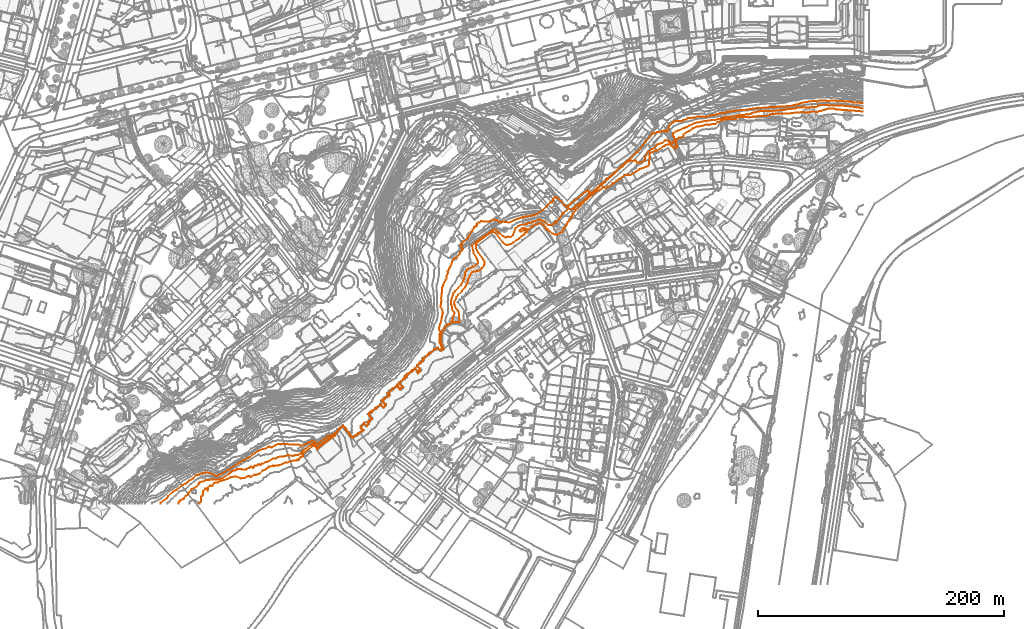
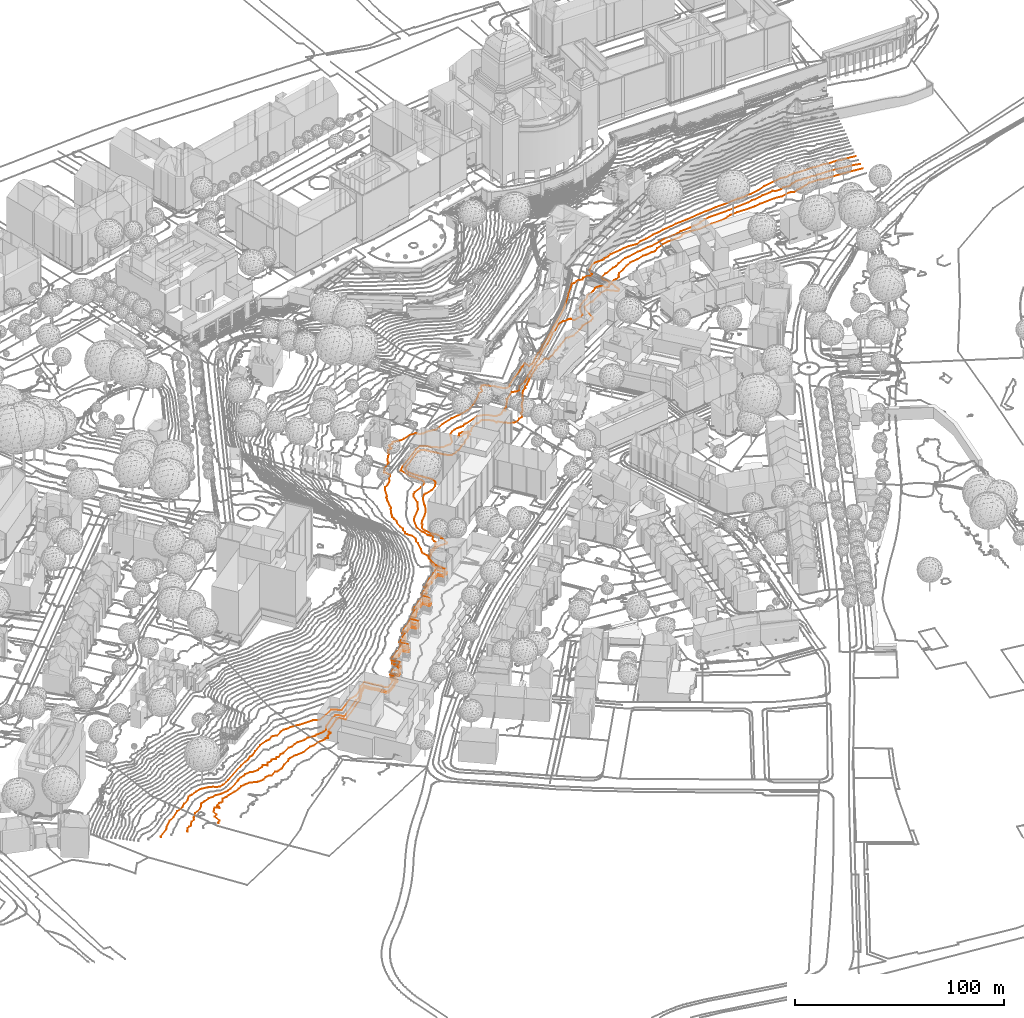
# Not in any storey, part 151 of 477: 3 geographic elements.
"""IFC4 model written with IfcOpenShell, lengths in metres."""

from ifc_helpers import new_model, entity, si_unit, frame, origin_with_axes, place, context, subcontext, project, spatial, element, save


model = new_model("IFC4")

# Units and contexts
model_context = context("Model", 3, precision=1e-05, world=origin_with_axes())
body_context = subcontext(model_context, "Body", "Model", "MODEL_VIEW")
ifc_project = project(units=[si_unit("AREAUNIT", "SQUARE_METRE"), si_unit("LENGTHUNIT", "METRE")], contexts=[model_context])

# Sites
site_1_placement = place(None, origin_with_axes())
site_1 = spatial("IfcSite", under=ifc_project, at=site_1_placement, Name="Topoexport Site")
site_2_placement = place(site_1_placement, origin_with_axes())
site_2 = spatial("IfcSite", under=site_1, at=site_2_placement, Name="TPX_CONTOUR_LINES")

# Geographic elements
geographic_element_1_placement = place(site_2_placement, frame((149.0503188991, -1.3292839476, 506.0), z_axis=(0.0, 0.0, 1.0), x_axis=(1.0, 0.0, 0.0)))
element("IfcGeographicElement", 1, at=geographic_element_1_placement, inside=site_2, Name="Contour Line 506.0 m", PredefinedType="NOTDEFINED", context=body_context, shape_type="GeometricCurveSet", body=[
    entity("IfcGeometricCurveSet", [entity("IfcIndexedPolyCurve", entity("IfcCartesianPointList3D", [[539.1274131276, 318.1795913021, 0.0], [534.6274131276, 318.7331112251, 0.0], [517.6274131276, 319.9297103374, 0.0], [516.314191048, 320.5, 0.0], [510.6274131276, 320.605263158, 0.0], [508.6274131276, 319.8259561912, 0.0], [505.6274131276, 319.1420975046, 0.0], [504.6274131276, 318.5729927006, 0.0], [503.0811289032, 318.5, 0.0], [501.6274131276, 317.7562446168, 0.0], [500.6274131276, 317.6974380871, 0.0], [498.6274131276, 318.3819385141, 0.0], [493.6274131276, 317.4269476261, 0.0], [489.6274131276, 317.8066559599, 0.0], [481.6274131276, 317.1678540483, 0.0], [478.6274131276, 316.5968567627, 0.0], [468.6274131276, 316.5110923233, 0.0], [464.6274131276, 316.2199140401, 0.0], [462.869023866, 315.5, 0.0], [458.6274131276, 314.4451345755, 0.0], [453.6274131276, 314.4213956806, 0.0], [448.6274131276, 313.9967196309, 0.0], [446.6274131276, 313.4705424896, 0.0], [441.6274131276, 313.9756642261, 0.0], [437.6274131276, 313.8356299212, 0.0], [436.6274131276, 313.5874130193, 0.0], [435.6274131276, 312.576432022, 0.0], [434.6274131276, 312.2596209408, 0.0], [427.6274131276, 311.971775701, 0.0], [424.6274131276, 311.2859959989, 0.0], [420.6274131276, 309.6381000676, 0.0], [418.6274131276, 308.0476821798, 0.0], [416.6274131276, 308.0710813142, 0.0], [413.6274131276, 307.498828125, 0.0], [411.6274131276, 307.7568775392, 0.0], [407.9791191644, 306.5, 0.0], [403.6274131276, 305.9440595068, 0.0], [400.6468883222, 304.5, 0.0], [397.6274131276, 302.4513502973, 0.0], [394.6274131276, 300.961122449, 0.0], [393.3709716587, 299.5, 0.0], [393.1261545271, 298.5, 0.0], [392.6274131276, 298.0224168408, 0.0], [390.6274131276, 297.1469775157, 0.0], [389.6274131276, 297.1513446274, 0.0], [387.6274131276, 296.0328448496, 0.0], [387.0874232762, 294.5, 0.0], [387.4627930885, 292.5, 0.0], [387.2343445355, 291.5, 0.0], [387.7260961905, 290.5, 0.0], [387.6612018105, 289.5, 0.0], [387.6274131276, 289.1161449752, 0.0], [386.9792328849, 288.5, 0.0], [386.6274131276, 288.3247280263, 0.0], [385.6274131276, 288.6380622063, 0.0], [385.0130100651, 289.5, 0.0], [383.6274131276, 290.3649106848, 0.0], [382.6274131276, 291.5706206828, 0.0], [381.6274131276, 291.6778508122, 0.0], [378.6274131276, 291.1850411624, 0.0], [377.6274131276, 290.0541057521, 0.0], [376.6274131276, 289.7817955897, 0.0], [371.6274131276, 286.6683745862, 0.0], [370.6274131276, 286.7648910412, 0.0], [366.6274131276, 284.9454658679, 0.0], [366.0845931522, 284.5, 0.0], [365.4101036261, 282.5, 0.0], [365.3071844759, 275.5, 0.0], [364.6274131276, 274.3859761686, 0.0], [363.1334528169, 273.5, 0.0], [357.6274131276, 271.6295942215, 0.0], [354.6274131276, 269.5131526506, 0.0], [349.6274131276, 266.760131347, 0.0], [346.6274131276, 266.5471986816, 0.0], [345.6274131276, 266.8380166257, 0.0], [342.6274131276, 264.4309703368, 0.0], [340.6274131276, 263.2852605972, 0.0], [339.6274131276, 262.1532119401, 0.0], [338.6274131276, 262.1107469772, 0.0], [336.6274131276, 260.1230519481, 0.0], [335.6274131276, 260.1684147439, 0.0], [332.7552398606, 257.5, 0.0], [331.6274131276, 257.283780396, 0.0], [329.6274131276, 255.8809523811, 0.0], [328.6274131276, 256.8682539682, 0.0], [327.6274131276, 256.7540998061, 0.0], [325.6274131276, 255.0246166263, 0.0], [321.6274131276, 253.2059391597, 0.0], [321.2037678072, 252.5, 0.0], [316.1300595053, 248.5, 0.0], [315.4004064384, 247.5, 0.0], [313.6274131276, 246.1984126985, 0.0], [309.9587087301, 242.5, 0.0], [308.336539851, 241.5, 0.0], [307.9881915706, 240.5, 0.0], [305.6274131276, 238.7779795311, 0.0], [302.8437165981, 234.5, 0.0], [302.2433368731, 232.5, 0.0], [300.6274131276, 230.8021806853, 0.0], [299.1012404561, 228.5, 0.0], [297.8772436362, 225.5, 0.0], [296.6274131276, 223.967429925, 0.0], [295.8401790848, 223.5, 0.0], [294.7602425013, 220.5, 0.0], [292.6274131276, 219.7081551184, 0.0], [290.6274131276, 218.2825363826, 0.0], [288.6274131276, 218.2526815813, 0.0], [286.6274131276, 219.0372517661, 0.0], [283.6274131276, 221.5783831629, 0.0], [282.6274131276, 222.8463117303, 0.0], [281.5968196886, 222.5, 0.0], [280.8981759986, 224.5, 0.0], [279.6274131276, 225.8213698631, 0.0], [276.6274131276, 227.6371055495, 0.0], [275.6274131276, 227.4205785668, 0.0], [273.6274131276, 226.2970583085, 0.0], [272.6274131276, 226.3534818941, 0.0], [269.1141130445, 224.5, 0.0], [267.6274131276, 222.3342494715, 0.0], [266.6274131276, 222.3635090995, 0.0], [263.6274131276, 223.5267978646, 0.0], [261.6274131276, 223.3931606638, 0.0], [260.6274131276, 221.9438310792, 0.0], [259.8234131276, 221.5, 0.0], [260.6274131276, 220.9406956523, 0.0], [261.6274131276, 220.9827193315, 0.0], [263.6274131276, 222.0676618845, 0.0], [265.6274131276, 221.795430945, 0.0], [265.8096422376, 220.5, 0.0], [265.6274131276, 220.148742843, 0.0], [264.6274131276, 219.9161758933, 0.0], [263.6274131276, 218.2995852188, 0.0], [261.6274131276, 217.2810492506, 0.0], [260.1495294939, 215.5, 0.0], [257.6274131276, 214.0521481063, 0.0], [254.6274131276, 211.7222543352, 0.0], [252.6274131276, 210.5508045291, 0.0], [249.6274131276, 209.8019529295, 0.0], [248.6274131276, 210.0654235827, 0.0], [246.6274131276, 211.9024409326, 0.0], [240.6274131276, 219.4438158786, 0.0], [238.6274131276, 220.5635505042, 0.0], [237.6274131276, 220.4112393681, 0.0], [236.6274131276, 219.8761899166, 0.0], [234.4024678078, 218.5, 0.0], [225.1798437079, 211.5, 0.0], [224.6757989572, 210.5, 0.0], [224.4548750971, 207.5, 0.0], [226.6224528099, 203.5, 0.0], [230.3327727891, 198.5, 0.0], [231.3628978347, 196.5, 0.0], [231.6080552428, 194.5, 0.0], [231.3213357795, 193.5, 0.0], [229.6274131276, 191.1390687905, 0.0], [226.6274131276, 189.0081478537, 0.0], [222.6274131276, 188.1146252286, 0.0], [221.6274131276, 187.7324999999, 0.0], [220.6274131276, 186.7278820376, 0.0], [219.6274131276, 185.1738170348, 0.0], [217.6135966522, 180.5, 0.0], [217.5311613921, 179.5, 0.0], [215.51953782, 175.5, 0.0], [213.1019893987, 172.5, 0.0], [210.1579597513, 169.5, 0.0], [208.6242801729, 167.5, 0.0], [208.5088976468, 166.5, 0.0], [207.0577417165, 164.5, 0.0], [206.8467510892, 162.5, 0.0], [207.0423641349, 161.5, 0.0], [208.6274131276, 157.8876686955, 0.0], [209.9133849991, 156.5, 0.0], [210.4336311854, 155.5, 0.0], [210.9069401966, 153.5, 0.0], [210.7048956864, 152.5, 0.0], [211.240367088, 149.5, 0.0], [211.2262928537, 147.5, 0.0], [210.6274131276, 147.2526031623, 0.0], [207.6274131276, 147.2165244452, 0.0], [204.6274131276, 146.8090114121, 0.0], [202.6274131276, 145.2672645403, 0.0], [200.6274131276, 144.2782372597, 0.0], [197.704752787, 140.5, 0.0], [196.4396911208, 137.5, 0.0], [195.9455367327, 134.5, 0.0], [196.0265245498, 131.5, 0.0], [198.1768685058, 125.5, 0.0], [197.6274131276, 124.9499519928, 0.0], [196.6274131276, 124.9516405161, 0.0], [195.6274131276, 123.9509760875, 0.0], [193.6274131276, 125.9516428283, 0.0], [192.6274131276, 125.951323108, 0.0], [191.6274131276, 124.9515799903, 0.0], [190.6274131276, 124.9498276, 0.0], [187.6274131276, 121.9505866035, 0.0], [185.6274131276, 120.9481447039, 0.0], [182.01979435, 117.5, 0.0], [182.1780258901, 116.5, 0.0], [179.6274131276, 113.9774190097, 0.0], [178.6274131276, 113.9180944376, 0.0], [177.1776289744, 112.5, 0.0], [177.177696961, 111.5, 0.0], [179.1422324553, 109.5, 0.0], [179.1769544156, 107.5, 0.0], [178.6274131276, 106.9497401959, 0.0], [177.6274131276, 106.0483217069, 0.0], [177.178227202, 106.5, 0.0], [177.0444966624, 107.5, 0.0], [175.6274131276, 108.9516428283, 0.0], [174.6274131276, 108.9503022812, 0.0], [173.6274131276, 107.9515495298, 0.0], [171.6274131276, 106.9486875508, 0.0], [169.6274131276, 104.9509582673, 0.0], [167.1792981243, 103.5, 0.0], [168.1764648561, 102.5, 0.0], [166.6274131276, 101.1993164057, 0.0], [165.6274131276, 100.9488154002, 0.0], [162.3382463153, 97.5, 0.0], [165.1761520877, 94.5, 0.0], [164.2894774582, 93.5, 0.0], [163.6274131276, 92.9511290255, 0.0], [162.6274131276, 92.9516428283, 0.0], [161.0790559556, 94.5, 0.0], [160.6274131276, 95.6695430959, 0.0], [157.6274131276, 92.9512166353, 0.0], [155.6274131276, 91.9496935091, 0.0], [153.1765213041, 89.5, 0.0], [154.1757702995, 88.5, 0.0], [153.6274131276, 87.5108465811, 0.0], [152.6274131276, 86.9502114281, 0.0], [149.6274131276, 84.0343777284, 0.0], [148.3412491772, 83.5, 0.0], [151.0281874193, 80.5, 0.0], [151.1763721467, 79.5, 0.0], [149.6274131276, 77.9492298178, 0.0], [147.6274131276, 79.9516428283, 0.0], [146.6274131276, 79.9487176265, 0.0], [143.6274131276, 77.0575956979, 0.0], [142.6274131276, 76.9466592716, 0.0], [139.6274131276, 74.0209710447, 0.0], [138.6274131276, 73.9466369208, 0.0], [138.1793056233, 73.5, 0.0], [138.2211349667, 71.5, 0.0], [140.1757702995, 69.5, 0.0], [140.1760849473, 68.5, 0.0], [137.6274131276, 66.2548345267, 0.0], [137.1757702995, 65.5, 0.0], [137.1765065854, 64.5, 0.0], [135.6274131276, 62.9497192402, 0.0], [133.6274131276, 64.7411567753, 0.0], [131.1758255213, 62.5, 0.0], [131.1820613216, 61.5, 0.0], [133.0592970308, 59.5, 0.0], [132.6274131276, 59.0674618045, 0.0], [131.6274131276, 58.8243150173, 0.0], [129.6274131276, 56.9286708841, 0.0], [124.6274131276, 53.3078021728, 0.0], [123.6274131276, 53.894881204, 0.0], [122.1207012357, 55.5, 0.0], [121.0209011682, 57.5, 0.0], [118.1295600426, 60.5, 0.0], [117.794396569, 61.5, 0.0], [116.6274131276, 62.8924090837, 0.0], [113.6274131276, 60.1657652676, 0.0], [109.6274131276, 54.7682689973, 0.0], [107.6274131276, 53.6137033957, 0.0], [95.6274131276, 44.1953125, 0.0], [93.6274131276, 46.7553297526, 0.0], [92.6274131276, 46.9991136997, 0.0], [91.638451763, 46.5, 0.0], [84.6274131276, 40.8860647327, 0.0], [83.5472473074, 39.5, 0.0], [83.6274131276, 38.8072653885, 0.0], [83.9976258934, 38.5, 0.0], [83.6274131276, 38.0732305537, 0.0], [82.1869006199, 37.5, 0.0], [81.2562010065, 36.5, 0.0], [80.6274131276, 35.1466346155, 0.0], [79.6274131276, 35.5558578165, 0.0], [78.6274131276, 34.8061062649, 0.0], [74.6274131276, 34.5550272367, 0.0], [71.6274131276, 33.344121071, 0.0], [69.6274131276, 33.0942992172, 0.0], [64.6274131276, 30.9756725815, 0.0], [60.6274131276, 30.4926089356, 0.0], [59.6274131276, 30.6109346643, 0.0], [56.6274131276, 29.7696991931, 0.0], [55.6274131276, 29.2990803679, 0.0], [54.6274131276, 28.2279062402, 0.0], [51.3155349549, 26.5, 0.0], [48.6274131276, 24.0656035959, 0.0], [46.6274131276, 23.6194934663, 0.0], [45.6274131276, 23.0682110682, 0.0], [44.6274131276, 23.5121205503, 0.0], [41.6274131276, 21.483049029, 0.0], [40.6274131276, 22.2651347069, 0.0], [38.6274131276, 21.9521541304, 0.0], [36.6274131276, 20.6897543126, 0.0], [33.6274131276, 20.3145695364, 0.0], [29.6274131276, 21.7494574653, 0.0], [26.6274131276, 21.5358565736, 0.0], [24.6274131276, 21.154233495, 0.0], [22.6274131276, 19.905612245, 0.0], [19.6274131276, 18.7668949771, 0.0], [15.6274131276, 17.750781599, 0.0], [14.6274131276, 17.0020034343, 0.0], [13.6274131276, 17.0647783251, 0.0], [11.7919324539, 16.5, 0.0], [10.5198803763, 14.5, 0.0], [9.6274131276, 14.1659856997, 0.0], [8.5417077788, 14.5, 0.0], [6.6274131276, 12.7803519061, 0.0], [7.0005625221, 11.5, 0.0], [6.6341620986, 10.5, 0.0], [5.9428452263, 11.5, 0.0], [4.6274131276, 11.9767305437, 0.0], [3.4533652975, 10.5, 0.0], [2.8073571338, 9.5, 0.0], [2.6698723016, 6.5, 0.0], [1.0865284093, 5.5, 0.0], [1.3490672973, 1.5, 0.0], [0.0, 0.5, 0.0], [0.0, 0.0, 0.0]]))]),
])
geographic_element_2_placement = place(site_2_placement, frame((131.8527546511, -1.3292839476, 507.0), z_axis=(0.0, 0.0, 1.0), x_axis=(1.0, 0.0, 0.0)))
element("IfcGeographicElement", 2, at=geographic_element_2_placement, inside=site_2, Name="Contour Line 507.0 m", PredefinedType="NOTDEFINED", context=body_context, shape_type="GeometricCurveSet", body=[
    entity("IfcGeometricCurveSet", [entity("IfcIndexedPolyCurve", entity("IfcCartesianPointList3D", [[556.3249773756, 320.7010909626, 0.0], [551.8249773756, 321.75, 0.0], [550.8249773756, 321.6667436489, 0.0], [545.6986539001, 322.5, 0.0], [538.8249773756, 323.1541575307, 0.0], [533.8249773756, 323.2235699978, 0.0], [531.8249773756, 322.9883006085, 0.0], [530.8249773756, 323.4821631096, 0.0], [528.8249773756, 323.2677794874, 0.0], [526.8249773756, 323.6350699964, 0.0], [522.8249773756, 323.6372582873, 0.0], [519.8249773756, 323.0687103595, 0.0], [517.8249773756, 321.7685056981, 0.0], [516.8249773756, 321.7350644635, 0.0], [514.8249773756, 322.3136719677, 0.0], [512.8249773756, 321.453125, 0.0], [509.8249773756, 321.3249013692, 0.0], [508.8249773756, 322.302061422, 0.0], [506.8249773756, 321.733974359, 0.0], [502.7671082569, 321.5, 0.0], [500.8249773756, 320.8453315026, 0.0], [497.8249773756, 320.3995526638, 0.0], [496.4803150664, 320.5, 0.0], [493.8249773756, 319.8103486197, 0.0], [482.8249773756, 318.8356604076, 0.0], [471.8249773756, 318.4739909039, 0.0], [468.8249773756, 317.9326923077, 0.0], [465.8249773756, 317.0388127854, 0.0], [465.5316274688, 316.5, 0.0], [462.8249773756, 315.9618605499, 0.0], [461.8249773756, 316.1368552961, 0.0], [459.4207932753, 315.5, 0.0], [453.8249773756, 315.1652029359, 0.0], [451.8249773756, 314.3412291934, 0.0], [444.8249773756, 313.6876757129, 0.0], [435.8249773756, 311.4121590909, 0.0], [433.8249773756, 311.4877355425, 0.0], [428.8249773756, 310.6176603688, 0.0], [427.8249773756, 310.6883208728, 0.0], [421.8249773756, 309.1725656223, 0.0], [419.8249773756, 309.1184804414, 0.0], [414.8249773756, 306.8898659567, 0.0], [412.8336093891, 305.5, 0.0], [410.8249773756, 305.0212133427, 0.0], [405.8249773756, 302.7433371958, 0.0], [404.8249773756, 302.5255234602, 0.0], [401.8249773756, 300.6747114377, 0.0], [401.8249773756, 298.5432878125, 0.0], [402.7289543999, 297.5, 0.0], [403.1175914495, 295.5, 0.0], [402.8249773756, 293.8400477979, 0.0], [401.8249773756, 293.2485805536, 0.0], [401.3977368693, 292.5, 0.0], [400.8249773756, 292.2520494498, 0.0], [399.1870768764, 292.5, 0.0], [399.3218920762, 293.5, 0.0], [398.2560731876, 294.5, 0.0], [397.8249773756, 294.7790818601, 0.0], [395.8249773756, 294.9721079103, 0.0], [394.7828345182, 294.5, 0.0], [392.8249773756, 292.8227645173, 0.0], [388.8249773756, 291.4082568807, 0.0], [386.8249773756, 288.8778906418, 0.0], [384.8249773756, 288.0018952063, 0.0], [381.8249773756, 285.731696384, 0.0], [380.1453113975, 283.5, 0.0], [379.2953630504, 281.5, 0.0], [378.8249773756, 278.3224429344, 0.0], [376.8249773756, 277.3873714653, 0.0], [372.8249773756, 276.4722138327, 0.0], [371.8249773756, 278.3394793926, 0.0], [370.8721876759, 278.5, 0.0], [368.8249773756, 278.0904704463, 0.0], [367.8249773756, 278.4880788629, 0.0], [364.8249773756, 277.5157067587, 0.0], [360.8249773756, 273.7445426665, 0.0], [358.8249773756, 272.5661986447, 0.0], [351.8249773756, 265.7412375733, 0.0], [347.8249773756, 262.6675178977, 0.0], [341.8249773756, 256.8242179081, 0.0], [338.8249773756, 254.5662165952, 0.0], [333.8249773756, 249.879814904, 0.0], [332.9277686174, 249.5, 0.0], [330.8249773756, 247.7734399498, 0.0], [326.8249773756, 244.0388887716, 0.0], [322.8249773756, 241.8328492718, 0.0], [320.8249773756, 239.1044189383, 0.0], [319.8249773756, 238.7460827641, 0.0], [316.8249773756, 239.4542182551, 0.0], [312.8249773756, 235.9206699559, 0.0], [311.9544776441, 235.5, 0.0], [311.7219550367, 234.5, 0.0], [308.675866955, 230.5, 0.0], [306.8249773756, 228.5712460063, 0.0], [306.2020723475, 228.5, 0.0], [306.8249773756, 228.262260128, 0.0], [306.8249773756, 227.4009146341, 0.0], [305.8249773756, 228.4284199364, 0.0], [303.8249773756, 226.2893189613, 0.0], [302.8249773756, 225.9653961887, 0.0], [300.8249773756, 226.0128455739, 0.0], [299.8249773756, 226.3853775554, 0.0], [297.8249773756, 228.3803927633, 0.0], [296.0406874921, 229.5, 0.0], [292.8249773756, 230.4071281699, 0.0], [284.8249773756, 227.592541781, 0.0], [283.8249773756, 227.5246221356, 0.0], [282.8249773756, 226.8089110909, 0.0], [281.8249773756, 226.5514084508, 0.0], [279.8249773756, 226.6289617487, 0.0], [277.8249773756, 226.1202646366, 0.0], [275.8249773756, 225.1868333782, 0.0], [273.9338501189, 223.5, 0.0], [271.8249773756, 217.8308435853, 0.0], [269.8249773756, 216.458174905, 0.0], [267.8249773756, 216.5881024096, 0.0], [265.8249773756, 216.1153846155, 0.0], [263.8249773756, 217.0308248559, 0.0], [260.8249773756, 219.3033584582, 0.0], [259.7751383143, 220.5, 0.0], [256.8249773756, 222.6017110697, 0.0], [253.8249773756, 221.1879032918, 0.0], [240.8249773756, 211.817332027, 0.0], [238.6080529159, 209.5, 0.0], [239.9655179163, 203.5, 0.0], [242.8249773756, 198.3077913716, 0.0], [243.4693925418, 196.5, 0.0], [243.4670549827, 195.5, 0.0], [242.6917882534, 194.5, 0.0], [239.9951101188, 192.5, 0.0], [235.2654535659, 190.5, 0.0], [234.2014013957, 189.5, 0.0], [233.0763797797, 187.5, 0.0], [232.2512185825, 182.5, 0.0], [229.5820528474, 177.5, 0.0], [224.8249773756, 172.5040858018, 0.0], [223.312113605, 170.5, 0.0], [221.4618242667, 164.5, 0.0], [221.8204946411, 160.5, 0.0], [222.3080049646, 159.5, 0.0], [222.6937258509, 156.5, 0.0], [223.9416700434, 155.5, 0.0], [224.5266663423, 154.5, 0.0], [223.3527276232, 152.5, 0.0], [222.8813700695, 150.5, 0.0], [223.2186922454, 149.5, 0.0], [222.6478587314, 148.5, 0.0], [222.5310570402, 147.5, 0.0], [221.8249773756, 147.4662247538, 0.0], [219.7631289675, 145.5, 0.0], [217.8249773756, 144.8205977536, 0.0], [216.3175733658, 142.5, 0.0], [214.5260134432, 140.5, 0.0], [213.6449713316, 138.5, 0.0], [212.8433461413, 134.5, 0.0], [212.95745034, 131.5, 0.0], [213.5029934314, 129.5, 0.0], [215.2359830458, 125.5, 0.0], [214.8249773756, 125.0885510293, 0.0], [213.8249773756, 125.0898140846, 0.0], [212.8249773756, 124.0893170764, 0.0], [210.8249773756, 126.0898158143, 0.0], [209.8249773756, 126.0893982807, 0.0], [208.8249773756, 125.0897337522, 0.0], [207.8249773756, 125.0874452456, 0.0], [204.8249773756, 122.0887240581, 0.0], [202.8249773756, 121.0854089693, 0.0], [199.0314672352, 117.5, 0.0], [199.2379684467, 116.5, 0.0], [196.8249773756, 114.1234778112, 0.0], [195.8249773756, 114.0623077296, 0.0], [194.2375888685, 112.5, 0.0], [194.2376776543, 111.5, 0.0], [196.191363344, 109.5, 0.0], [196.2360473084, 107.5, 0.0], [195.8249773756, 107.0883926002, 0.0], [194.8249773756, 106.2177695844, 0.0], [194.3889420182, 107.5, 0.0], [192.8249773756, 109.0898158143, 0.0], [191.8249773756, 109.0880651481, 0.0], [190.8249773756, 108.0896939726, 0.0], [189.8249773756, 107.8336985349, 0.0], [186.8249773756, 105.0889218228, 0.0], [184.8249773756, 104.0843139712, 0.0], [184.2397686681, 103.5, 0.0], [185.2356811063, 102.5, 0.0], [183.8249773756, 101.4132612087, 0.0], [182.8249773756, 101.0861233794, 0.0], [179.3570864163, 97.5, 0.0], [182.2354471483, 94.5, 0.0], [181.3202172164, 93.5, 0.0], [180.8249773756, 93.0894314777, 0.0], [179.8249773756, 93.0898158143, 0.0], [178.4147931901, 94.5, 0.0], [178.2049980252, 95.5, 0.0], [177.8249773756, 95.8763935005, 0.0], [174.8249773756, 93.0892592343, 0.0], [173.8249773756, 92.8319645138, 0.0], [172.8249773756, 92.0872701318, 0.0], [170.2361423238, 89.5, 0.0], [171.2351615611, 88.5, 0.0], [170.8249773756, 87.7600897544, 0.0], [166.8249773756, 84.1978621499, 0.0], [165.8249773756, 83.9645879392, 0.0], [165.3603666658, 83.5, 0.0], [168.0424280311, 80.5, 0.0], [168.2356117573, 79.5, 0.0], [166.8249773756, 78.0880108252, 0.0], [164.8249773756, 80.0898158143, 0.0], [163.8249773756, 80.0859956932, 0.0], [160.8249773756, 77.22818329, 0.0], [159.8249773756, 77.0833076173, 0.0], [156.8249773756, 74.1803539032, 0.0], [155.8249773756, 74.0832784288, 0.0], [155.2397784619, 73.5, 0.0], [155.2703129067, 71.5, 0.0], [157.2351615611, 69.5, 0.0], [157.2353969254, 68.5, 0.0], [154.8249773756, 66.4857642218, 0.0], [154.2351615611, 65.5, 0.0], [154.2357123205, 64.5, 0.0], [152.8249773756, 63.0883769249, 0.0], [150.8249773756, 64.9306449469, 0.0], [148.2352336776, 62.5, 0.0], [148.2433772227, 61.5, 0.0], [150.0817109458, 59.5, 0.0], [149.8249773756, 59.2428774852, 0.0], [148.8249773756, 58.9878524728, 0.0], [146.8249773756, 57.0605361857, 0.0], [141.8249773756, 53.554673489, 0.0], [140.8249773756, 54.0165853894, 0.0], [139.4752499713, 55.5, 0.0], [138.3399962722, 57.5, 0.0], [135.4882929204, 60.5, 0.0], [135.158042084, 61.5, 0.0], [133.8249773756, 63.0134264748, 0.0], [130.8292322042, 60.5, 0.0], [127.8249773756, 56.5054559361, 0.0], [126.8249773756, 55.6090789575, 0.0], [124.3662568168, 54.5, 0.0], [112.8249773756, 45.6838542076, 0.0], [110.8249773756, 48.1172721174, 0.0], [109.8249773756, 48.6961075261, 0.0], [109.315154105, 48.5, 0.0], [107.2395502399, 47.5, 0.0], [101.8249773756, 43.3573556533, 0.0], [100.8249773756, 42.4069422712, 0.0], [99.8249773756, 40.6392226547, 0.0], [97.8249773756, 39.5021442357, 0.0], [93.8249773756, 39.0413628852, 0.0], [92.8249773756, 38.5575511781, 0.0], [88.8249773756, 39.0656598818, 0.0], [86.8249773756, 38.2575839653, 0.0], [82.8249773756, 38.1799809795, 0.0], [80.8249773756, 37.6926693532, 0.0], [78.8249773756, 36.3518918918, 0.0], [76.8249773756, 36.453580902, 0.0], [72.8249773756, 34.0523156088, 0.0], [71.8249773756, 33.687510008, 0.0], [70.8249773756, 33.7378774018, 0.0], [68.8249773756, 32.1527966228, 0.0], [67.8249773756, 32.4257958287, 0.0], [66.8249773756, 31.2667531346, 0.0], [65.8249773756, 31.7746852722, 0.0], [64.8249773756, 31.6597927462, 0.0], [63.8249773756, 30.8389408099, 0.0], [61.8249773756, 30.6353267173, 0.0], [60.8249773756, 28.5903588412, 0.0], [60.2026762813, 29.5, 0.0], [58.8249773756, 29.9675521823, 0.0], [57.8249773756, 28.8029237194, 0.0], [55.8249773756, 28.3169838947, 0.0], [54.8249773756, 27.6118766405, 0.0], [51.8249773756, 27.4863400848, 0.0], [50.8249773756, 28.0498193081, 0.0], [47.8249773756, 27.6846646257, 0.0], [46.8249773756, 26.9262611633, 0.0], [44.5776318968, 26.5, 0.0], [42.9190261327, 25.5, 0.0], [41.8249773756, 24.4361220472, 0.0], [35.8249773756, 20.7772107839, 0.0], [33.8249773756, 19.957668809, 0.0], [29.8249773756, 19.2276461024, 0.0], [26.8249773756, 19.5543377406, 0.0], [24.8249773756, 19.0355303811, 0.0], [22.8249773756, 19.0746998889, 0.0], [19.8249773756, 17.7382625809, 0.0], [17.8249773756, 17.2665806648, 0.0], [16.9953124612, 16.5, 0.0], [16.6128328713, 15.5, 0.0], [14.8249773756, 13.711755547, 0.0], [10.8249773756, 11.470754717, 0.0], [8.3892174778, 8.5, 0.0], [7.8249773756, 7.1655151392, 0.0], [5.8249773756, 6.1143936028, 0.0], [4.5028047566, 4.5, 0.0], [4.1419718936, 3.5, 0.0], [2.8249773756, 3.2114769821, 0.0], [1.4893339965, 2.5, 0.0], [0.9805260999, 1.5, 0.0], [0.0, 0.5, 0.0], [0.0, 0.0, 0.0]]))]),
])
geographic_element_3_placement = place(site_2_placement, frame((117.2585436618, -1.3292839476, 509.0), z_axis=(0.0, 0.0, 1.0), x_axis=(1.0, 0.0, 0.0)))
element("IfcGeographicElement", 3, at=geographic_element_3_placement, inside=site_2, Name="Contour Line 509.0 m", PredefinedType="NOTDEFINED", context=body_context, shape_type="GeometricCurveSet", body=[
    entity("IfcGeometricCurveSet", [entity("IfcIndexedPolyCurve", entity("IfcCartesianPointList3D", [[570.9191883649, 324.956254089, 0.0], [565.4191883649, 325.6498417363, 0.0], [563.4191883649, 325.6430335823, 0.0], [561.4191883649, 326.187281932, 0.0], [556.4191883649, 326.2981548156, 0.0], [553.4191883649, 326.9506746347, 0.0], [550.4191883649, 326.5363046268, 0.0], [549.4191883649, 326.9317990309, 0.0], [547.4191883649, 327.0731755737, 0.0], [541.4191883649, 326.9684140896, 0.0], [538.4191883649, 327.3371040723, 0.0], [535.4191883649, 327.1502746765, 0.0], [533.4191883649, 326.5601491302, 0.0], [530.4191883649, 326.9946310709, 0.0], [520.4191883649, 325.2432694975, 0.0], [516.4191883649, 323.878028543, 0.0], [511.4191883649, 322.8057544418, 0.0], [509.4191883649, 322.7835549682, 0.0], [506.4191883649, 322.2893516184, 0.0], [504.4191883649, 322.4062438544, 0.0], [496.4191883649, 321.7698817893, 0.0], [491.4191883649, 321.6907033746, 0.0], [488.4191883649, 321.2209009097, 0.0], [482.4191883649, 320.8667191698, 0.0], [474.4191883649, 319.6142624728, 0.0], [468.4191883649, 319.2023544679, 0.0], [460.4191883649, 317.9297176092, 0.0], [457.4191883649, 317.1648111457, 0.0], [454.4191883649, 316.8980057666, 0.0], [449.6561003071, 315.5, 0.0], [446.4191883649, 315.0593172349, 0.0], [443.4191883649, 313.8422740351, 0.0], [439.4191883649, 314.2780142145, 0.0], [436.4191883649, 314.1614759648, 0.0], [434.1415413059, 313.5, 0.0], [428.4191883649, 312.8295916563, 0.0], [426.4191883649, 311.7634697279, 0.0], [424.4191883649, 311.3011719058, 0.0], [423.4191883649, 310.6657935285, 0.0], [418.1407142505, 310.5, 0.0], [416.4191883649, 309.6123804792, 0.0], [413.1050712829, 306.5, 0.0], [412.4191883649, 302.834402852, 0.0], [411.4191883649, 302.2633055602, 0.0], [410.4191883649, 302.0345102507, 0.0], [409.4191883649, 302.6687090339, 0.0], [407.4191883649, 302.3069245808, 0.0], [406.4191883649, 301.3358502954, 0.0], [404.4191883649, 301.7287636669, 0.0], [403.4191883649, 301.5842193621, 0.0], [401.4191883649, 300.6033509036, 0.0], [400.4191883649, 300.9194756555, 0.0], [399.4191883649, 300.1702997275, 0.0], [398.3043567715, 298.5, 0.0], [394.4191883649, 294.4466911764, 0.0], [393.9585779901, 293.5, 0.0], [387.184973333, 285.5, 0.0], [378.4191883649, 277.207113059, 0.0], [374.4191883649, 273.883095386, 0.0], [369.4191883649, 269.1497028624, 0.0], [362.4191883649, 263.3827265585, 0.0], [361.8174788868, 262.5, 0.0], [358.4191883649, 259.3912957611, 0.0], [357.4191883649, 258.9880534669, 0.0], [350.4191883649, 252.4017835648, 0.0], [349.4191883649, 252.4090691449, 0.0], [348.252701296, 251.5, 0.0], [347.6796645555, 254.5, 0.0], [347.4191883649, 254.5953127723, 0.0], [345.4191883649, 252.9341257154, 0.0], [344.4191883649, 252.6755770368, 0.0], [342.3587524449, 250.5, 0.0], [336.848366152, 246.5, 0.0], [332.4191883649, 242.8423085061, 0.0], [331.3338391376, 241.5, 0.0], [330.4191883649, 241.057976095, 0.0], [329.4191883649, 241.2006193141, 0.0], [328.4191883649, 241.8307703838, 0.0], [325.4191883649, 245.4125582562, 0.0], [322.6647425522, 247.5, 0.0], [322.4191883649, 248.1979976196, 0.0], [321.4191883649, 248.6669196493, 0.0], [320.4191883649, 248.71997778, 0.0], [319.0611315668, 247.5, 0.0], [318.7080348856, 246.5, 0.0], [318.8885010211, 245.5, 0.0], [318.4191883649, 244.6663359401, 0.0], [316.4191883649, 244.1571514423, 0.0], [314.0131702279, 241.5, 0.0], [310.4191883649, 238.3744469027, 0.0], [306.4590020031, 235.5, 0.0], [304.4191883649, 234.4567476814, 0.0], [300.4191883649, 233.3959359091, 0.0], [294.4191883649, 232.4699636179, 0.0], [288.4191883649, 230.6132824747, 0.0], [283.4191883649, 228.0901189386, 0.0], [278.4191883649, 228.7806096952, 0.0], [276.4191883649, 228.2292281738, 0.0], [274.4191883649, 228.9398814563, 0.0], [273.4191883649, 230.2025157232, 0.0], [270.4191883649, 230.4370669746, 0.0], [266.4191883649, 229.0843769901, 0.0], [263.4191883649, 228.7542889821, 0.0], [260.3358550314, 229.5, 0.0], [259.4191883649, 228.2538966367, 0.0], [258.4191883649, 228.1879073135, 0.0], [257.2573242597, 227.5, 0.0], [257.0237785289, 226.5, 0.0], [257.2495907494, 225.5, 0.0], [256.4191883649, 224.9375126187, 0.0], [255.4191883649, 224.9858381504, 0.0], [254.7199371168, 224.5, 0.0], [254.6157735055, 223.5, 0.0], [253.6615479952, 222.5, 0.0], [253.6771431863, 221.5, 0.0], [252.5392037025, 220.5, 0.0], [250.4191883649, 217.4055118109, 0.0], [249.861717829, 215.5, 0.0], [246.1172640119, 212.5, 0.0], [245.4191883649, 211.685127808, 0.0], [244.9200828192, 210.5, 0.0], [244.4191883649, 210.2881996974, 0.0], [243.9189483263, 209.5, 0.0], [244.7752276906, 208.5, 0.0], [245.0196678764, 207.5, 0.0], [245.6819524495, 206.5, 0.0], [245.0185713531, 205.5, 0.0], [243.7207756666, 204.5, 0.0], [243.0278721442, 202.5, 0.0], [240.4191883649, 199.7612770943, 0.0], [238.4191883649, 198.776003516, 0.0], [237.0213810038, 196.5, 0.0], [235.328988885, 191.5, 0.0], [234.4191883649, 190.7940780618, 0.0], [234.2076430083, 189.5, 0.0], [233.4233637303, 188.5, 0.0], [233.5898245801, 187.5, 0.0], [232.5870939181, 184.5, 0.0], [232.3767769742, 182.5, 0.0], [231.4895313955, 181.5, 0.0], [229.561897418, 177.5, 0.0], [229.4531563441, 176.5, 0.0], [228.9033709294, 175.5, 0.0], [229.0020554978, 174.5, 0.0], [228.7320394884, 173.5, 0.0], [228.9750546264, 171.5, 0.0], [228.5569895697, 170.5, 0.0], [228.0697891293, 166.5, 0.0], [228.4467030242, 164.5, 0.0], [227.8694676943, 163.5, 0.0], [227.8398081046, 161.5, 0.0], [227.4005031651, 160.5, 0.0], [227.6727695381, 159.5, 0.0], [228.9994881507, 157.5, 0.0], [229.4651559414, 154.5, 0.0], [229.3423183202, 153.5, 0.0], [228.7249377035, 152.5, 0.0], [228.5902089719, 150.5, 0.0], [227.3440999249, 145.5, 0.0], [226.3347598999, 142.5, 0.0], [226.4512941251, 141.5, 0.0], [227.4191883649, 139.2711409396, 0.0], [227.4191883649, 138.3452421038, 0.0], [226.8264330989, 137.5, 0.0], [226.7263313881, 136.5, 0.0], [226.9549753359, 130.5, 0.0], [228.7437647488, 126.5, 0.0], [229.5532946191, 125.5, 0.0], [228.4191883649, 125.3661612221, 0.0], [227.4191883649, 124.3659990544, 0.0], [225.4191883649, 126.3661617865, 0.0], [224.4191883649, 126.3655486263, 0.0], [223.4191883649, 125.3660412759, 0.0], [222.4191883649, 125.3626805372, 0.0], [219.4191883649, 122.3649989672, 0.0], [218.4191883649, 122.1787001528, 0.0], [214.4191883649, 118.3661070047, 0.0], [212.9622807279, 117.5, 0.0], [213.5569360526, 116.5, 0.0], [212.4191883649, 115.364292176, 0.0], [211.4191883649, 114.4155954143, 0.0], [210.4191883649, 114.3507343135, 0.0], [208.5565911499, 112.5, 0.0], [208.5567215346, 111.5, 0.0], [210.4887076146, 109.5, 0.0], [210.4191883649, 107.3656974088, 0.0], [209.4191883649, 106.7566396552, 0.0], [209.2769152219, 107.5, 0.0], [207.4191883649, 109.3661617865, 0.0], [206.4191883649, 109.3635908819, 0.0], [205.4191883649, 108.3659828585, 0.0], [204.4191883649, 108.2715129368, 0.0], [201.4191883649, 105.3648489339, 0.0], [200.4191883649, 105.2293862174, 0.0], [199.4191883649, 104.358082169, 0.0], [198.5597922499, 103.5, 0.0], [199.5531960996, 102.5, 0.0], [198.4191883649, 102.1169386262, 0.0], [197.4191883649, 101.3607393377, 0.0], [193.5938491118, 97.5, 0.0], [196.5531197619, 94.5, 0.0], [195.5807792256, 93.5, 0.0], [194.4191883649, 93.3661617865, 0.0], [193.2853501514, 94.5, 0.0], [193.2168964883, 95.5, 0.0], [192.4191883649, 96.29009431, 0.0], [189.4191883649, 93.3653444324, 0.0], [188.4191883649, 93.272424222, 0.0], [184.5544668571, 89.5, 0.0], [185.5530265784, 88.5, 0.0], [185.4191883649, 88.2585761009, 0.0], [182.4191883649, 85.3656288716, 0.0], [181.2873926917, 84.5, 0.0], [180.4191883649, 84.3214639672, 0.0], [179.5976841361, 83.5, 0.0], [181.5530265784, 81.5, 0.0], [182.5531734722, 79.5, 0.0], [181.4191883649, 78.3655728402, 0.0], [179.4191883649, 80.3661617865, 0.0], [178.4191883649, 80.3605518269, 0.0], [176.4191883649, 78.3639141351, 0.0], [175.1399328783, 77.5, 0.0], [174.4191883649, 77.3566043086, 0.0], [171.4191883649, 74.4991196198, 0.0], [170.4191883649, 74.3565614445, 0.0], [169.5598066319, 73.5, 0.0], [169.1511236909, 72.5, 0.0], [169.56775128, 71.5, 0.0], [171.5530265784, 69.5, 0.0], [171.5531033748, 68.5, 0.0], [170.4191883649, 67.3657018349, 0.0], [169.4191883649, 67.1595090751, 0.0], [168.7584924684, 66.5, 0.0], [168.5532062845, 64.5, 0.0], [167.4191883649, 63.365692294, 0.0], [165.4191883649, 65.3096212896, 0.0], [162.5531324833, 62.5, 0.0], [162.5650915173, 61.5, 0.0], [163.561124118, 60.5, 0.0], [164.0985134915, 59.5, 0.0], [163.4191883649, 59.3149273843, 0.0], [161.4191883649, 57.324266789, 0.0], [160.4191883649, 56.9736058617, 0.0], [157.4191883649, 54.4799384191, 0.0], [156.4191883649, 54.0344005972, 0.0], [155.4191883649, 54.2599937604, 0.0], [154.3834299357, 55.5, 0.0], [154.0119236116, 56.5, 0.0], [151.1764896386, 59.5, 0.0], [150.4048411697, 60.5, 0.0], [150.0844156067, 61.5, 0.0], [148.4191883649, 63.255461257, 0.0], [145.4191883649, 60.9924604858, 0.0], [143.4191883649, 58.4861163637, 0.0], [139.5637088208, 55.5, 0.0], [135.7379177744, 54.5, 0.0], [127.4191883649, 48.2633629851, 0.0], [126.4191883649, 48.9055058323, 0.0], [125.4191883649, 50.0722520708, 0.0], [123.4191883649, 51.0974834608, 0.0], [114.4191883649, 46.6129554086, 0.0], [112.4191883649, 47.6510143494, 0.0], [111.4191883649, 47.852244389, 0.0], [104.4191883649, 47.7642718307, 0.0], [102.4191883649, 48.1924112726, 0.0], [99.4191883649, 48.3061787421, 0.0], [97.4191883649, 47.9545073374, 0.0], [95.4191883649, 48.1552072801, 0.0], [93.4191883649, 47.3750620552, 0.0], [90.4191883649, 45.4564149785, 0.0], [88.4191883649, 46.0721860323, 0.0], [87.4191883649, 45.8940298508, 0.0], [85.4191883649, 44.3800399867, 0.0], [83.4191883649, 44.280654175, 0.0], [79.4191883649, 42.6363937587, 0.0], [74.8309644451, 39.5, 0.0], [72.4191883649, 37.4612143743, 0.0], [71.4191883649, 36.8565686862, 0.0], [70.4191883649, 36.8392291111, 0.0], [68.4191883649, 35.0720223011, 0.0], [66.4191883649, 34.3328798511, 0.0], [63.0117951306, 32.5, 0.0], [51.4191883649, 24.9311853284, 0.0], [47.4191883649, 22.8608231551, 0.0], [45.4191883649, 22.3010396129, 0.0], [43.4191883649, 22.9172364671, 0.0], [42.4191883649, 23.8095871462, 0.0], [40.4243474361, 24.5, 0.0], [36.4191883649, 25.2435677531, 0.0], [33.4191883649, 24.4197811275, 0.0], [30.4191883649, 23.0508950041, 0.0], [29.4191883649, 23.0686532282, 0.0], [28.4191883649, 22.6837266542, 0.0], [26.4191883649, 20.2162134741, 0.0], [23.4191883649, 18.4036237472, 0.0], [22.2726015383, 17.5, 0.0], [21.4191883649, 16.3390723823, 0.0], [17.4191883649, 14.6876239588, 0.0], [13.4191883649, 11.2360854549, 0.0], [10.4191883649, 9.7737229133, 0.0], [6.4191883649, 5.8403277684, 0.0], [5.4191883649, 4.2322131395, 0.0], [0.0, 0.5, 0.0], [0.0, 0.0, 0.0]]))]),
])

save(model, "model.ifc")
